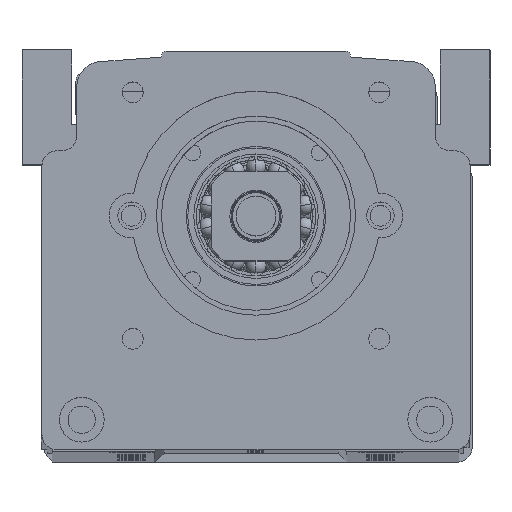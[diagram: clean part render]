
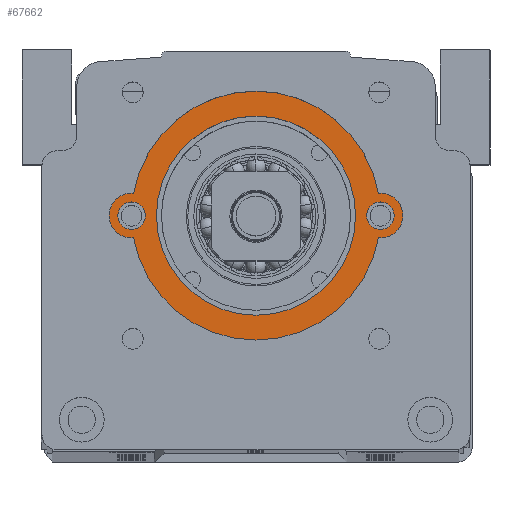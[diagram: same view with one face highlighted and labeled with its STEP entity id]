
A CAD part, top view. The second image highlights one B-rep face of the part: STEP entity #67662.
In plain terms, the highlighted planar face has unit normal (0, 0, 1).
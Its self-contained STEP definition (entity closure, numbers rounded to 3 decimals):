
#212 = CIRCLE ( 'NONE', #69262, 4.5 ) ;
#2012 = CARTESIAN_POINT ( 'NONE',  ( 11.857, 5.327, 7. ) ) ;
#2451 = DIRECTION ( 'NONE',  ( 1., 0., 0. ) ) ;
#2621 = CARTESIAN_POINT ( 'NONE',  ( 14.107, 5.327, 7. ) ) ;
#2680 = CARTESIAN_POINT ( 'NONE',  ( 16.857, 5.327, 7. ) ) ;
#3216 = AXIS2_PLACEMENT_3D ( 'NONE', #73124, #39226, #5270 ) ;
#3850 = CARTESIAN_POINT ( 'NONE',  ( -32.738, 9.808, 7. ) ) ;
#3920 = CIRCLE ( 'NONE', #4510, 25. ) ;
#4357 = EDGE_LOOP ( 'NONE', ( #58655, #32976, #61003, #28174, #9311 ) ) ;
#4510 = AXIS2_PLACEMENT_3D ( 'NONE', #64524, #30669, #70250 ) ;
#5270 = DIRECTION ( 'NONE',  ( 1., 0., 0. ) ) ;
#5380 = AXIS2_PLACEMENT_3D ( 'NONE', #32871, #72456, #38560 ) ;
#5786 = AXIS2_PLACEMENT_3D ( 'NONE', #18824, #58431, #24543 ) ;
#5835 = CARTESIAN_POINT ( 'NONE',  ( -33.143, 5.327, 7. ) ) ;
#6527 = CARTESIAN_POINT ( 'NONE',  ( 21.357, 5.327, 7. ) ) ;
#6613 = CIRCLE ( 'NONE', #41526, 4.5 ) ;
#7430 = ORIENTED_EDGE ( 'NONE', *, *, #66810, .F. ) ;
#7732 = AXIS2_PLACEMENT_3D ( 'NONE', #70314, #36394, #2451 ) ;
#8374 = DIRECTION ( 'NONE',  ( 1., 0., 0. ) ) ;
#9131 = CARTESIAN_POINT ( 'NONE',  ( 16.857, 5.327, 7. ) ) ;
#9311 = ORIENTED_EDGE ( 'NONE', *, *, #55494, .T. ) ;
#10224 = EDGE_CURVE ( 'NONE', #24793, #34434, #212, .T. ) ;
#11531 = DIRECTION ( 'NONE',  ( 1., 0., 0. ) ) ;
#11631 = CARTESIAN_POINT ( 'NONE',  ( -28.143, 5.327, 7. ) ) ;
#11662 = CARTESIAN_POINT ( 'NONE',  ( 16.452, 9.808, 7. ) ) ;
#13563 = EDGE_CURVE ( 'NONE', #34434, #18160, #68285, .T. ) ;
#14150 = AXIS2_PLACEMENT_3D ( 'NONE', #68558, #45790, #34662 ) ;
#14706 = CARTESIAN_POINT ( 'NONE',  ( -35.893, 5.327, 7. ) ) ;
#14785 = DIRECTION ( 'NONE',  ( 1., 0., 0. ) ) ;
#15352 = CARTESIAN_POINT ( 'NONE',  ( -33.143, 5.327, 7. ) ) ;
#15949 = CARTESIAN_POINT ( 'NONE',  ( -8.143, 5.327, 7. ) ) ;
#18160 = VERTEX_POINT ( 'NONE', #11662 ) ;
#18824 = CARTESIAN_POINT ( 'NONE',  ( 16.857, 5.327, 7. ) ) ;
#19632 = CIRCLE ( 'NONE', #7732, 25. ) ;
#19810 = CARTESIAN_POINT ( 'NONE',  ( -32.738, 0.845, 7. ) ) ;
#20272 = VERTEX_POINT ( 'NONE', #2012 ) ;
#20438 = FACE_BOUND ( 'NONE', #65595, .T. ) ;
#21073 = CARTESIAN_POINT ( 'NONE',  ( 19.607, 5.327, 7. ) ) ;
#21085 = DIRECTION ( 'NONE',  ( 1., 0., 0. ) ) ;
#21706 = DIRECTION ( 'NONE',  ( 1., 0., 0. ) ) ;
#23303 = PLANE ( 'NONE',  #14150 ) ;
#24543 = DIRECTION ( 'NONE',  ( 1., 0., 0. ) ) ;
#24772 = CIRCLE ( 'NONE', #33300, 2.75 ) ;
#24793 = VERTEX_POINT ( 'NONE', #67135 ) ;
#25907 = AXIS2_PLACEMENT_3D ( 'NONE', #2680, #42323, #8374 ) ;
#28174 = ORIENTED_EDGE ( 'NONE', *, *, #13563, .T. ) ;
#30150 = ORIENTED_EDGE ( 'NONE', *, *, #58179, .F. ) ;
#30669 = DIRECTION ( 'NONE',  ( 0., 0., 1. ) ) ;
#32449 = CARTESIAN_POINT ( 'NONE',  ( -33.143, 5.327, 7. ) ) ;
#32526 = EDGE_CURVE ( 'NONE', #53433, #63291, #69903, .T. ) ;
#32871 = CARTESIAN_POINT ( 'NONE',  ( 16.857, 5.327, 7. ) ) ;
#32976 = ORIENTED_EDGE ( 'NONE', *, *, #63187, .T. ) ;
#33300 = AXIS2_PLACEMENT_3D ( 'NONE', #15352, #55005, #21085 ) ;
#34334 = VERTEX_POINT ( 'NONE', #45438 ) ;
#34434 = VERTEX_POINT ( 'NONE', #6527 ) ;
#34662 = DIRECTION ( 'NONE',  ( 1., 0., 0. ) ) ;
#35119 = EDGE_CURVE ( 'NONE', #20272, #44035, #46689, .T. ) ;
#36394 = DIRECTION ( 'NONE',  ( 0., 0., 1. ) ) ;
#37665 = VERTEX_POINT ( 'NONE', #14706 ) ;
#38131 = DIRECTION ( 'NONE',  ( 1., 0., 0. ) ) ;
#38560 = DIRECTION ( 'NONE',  ( 1., 0., 0. ) ) ;
#38859 = ORIENTED_EDGE ( 'NONE', *, *, #69820, .F. ) ;
#39226 = DIRECTION ( 'NONE',  ( 0., 0., 1. ) ) ;
#41526 = AXIS2_PLACEMENT_3D ( 'NONE', #32449, #72026, #38131 ) ;
#41911 = VERTEX_POINT ( 'NONE', #3850 ) ;
#42323 = DIRECTION ( 'NONE',  ( 0., 0., 1. ) ) ;
#42639 = EDGE_LOOP ( 'NONE', ( #30150, #38859 ) ) ;
#44035 = VERTEX_POINT ( 'NONE', #11631 ) ;
#45438 = CARTESIAN_POINT ( 'NONE',  ( -30.393, 5.327, 7. ) ) ;
#45492 = DIRECTION ( 'NONE',  ( 0., 0., 1. ) ) ;
#45790 = DIRECTION ( 'NONE',  ( 0., 0., 1. ) ) ;
#46689 = CIRCLE ( 'NONE', #70554, 20. ) ;
#47528 = VERTEX_POINT ( 'NONE', #19810 ) ;
#48765 = DIRECTION ( 'NONE',  ( 0., 0., 1. ) ) ;
#48801 = FACE_OUTER_BOUND ( 'NONE', #4357, .T. ) ;
#50127 = ORIENTED_EDGE ( 'NONE', *, *, #61085, .F. ) ;
#50547 = FACE_BOUND ( 'NONE', #42639, .T. ) ;
#53433 = VERTEX_POINT ( 'NONE', #21073 ) ;
#55005 = DIRECTION ( 'NONE',  ( 0., 0., 1. ) ) ;
#55494 = EDGE_CURVE ( 'NONE', #18160, #41911, #19632, .T. ) ;
#55601 = DIRECTION ( 'NONE',  ( 0., 0., 1. ) ) ;
#56488 = AXIS2_PLACEMENT_3D ( 'NONE', #5835, #45492, #11531 ) ;
#58152 = CIRCLE ( 'NONE', #5380, 2.75 ) ;
#58179 = EDGE_CURVE ( 'NONE', #37665, #34334, #24772, .T. ) ;
#58431 = DIRECTION ( 'NONE',  ( 0., 0., 1. ) ) ;
#58655 = ORIENTED_EDGE ( 'NONE', *, *, #62741, .T. ) ;
#61003 = ORIENTED_EDGE ( 'NONE', *, *, #10224, .T. ) ;
#61085 = EDGE_CURVE ( 'NONE', #63291, #53433, #58152, .T. ) ;
#61145 = ORIENTED_EDGE ( 'NONE', *, *, #35119, .F. ) ;
#61674 = ORIENTED_EDGE ( 'NONE', *, *, #32526, .F. ) ;
#62741 = EDGE_CURVE ( 'NONE', #41911, #47528, #6613, .T. ) ;
#63187 = EDGE_CURVE ( 'NONE', #47528, #24793, #3920, .T. ) ;
#63291 = VERTEX_POINT ( 'NONE', #2621 ) ;
#63829 = FACE_BOUND ( 'NONE', #64910, .T. ) ;
#63894 = CIRCLE ( 'NONE', #3216, 20. ) ;
#64524 = CARTESIAN_POINT ( 'NONE',  ( -8.143, 5.327, 7. ) ) ;
#64910 = EDGE_LOOP ( 'NONE', ( #50127, #61674 ) ) ;
#65595 = EDGE_LOOP ( 'NONE', ( #7430, #61145 ) ) ;
#66810 = EDGE_CURVE ( 'NONE', #44035, #20272, #63894, .T. ) ;
#67135 = CARTESIAN_POINT ( 'NONE',  ( 16.452, 0.845, 7. ) ) ;
#67662 = ADVANCED_FACE ( 'NONE', ( #50547, #48801, #63829, #20438 ), #23303, .T. ) ;
#68285 = CIRCLE ( 'NONE', #5786, 4.5 ) ;
#68558 = CARTESIAN_POINT ( 'NONE',  ( -33.143, 5.327, 7. ) ) ;
#69262 = AXIS2_PLACEMENT_3D ( 'NONE', #9131, #48765, #14785 ) ;
#69820 = EDGE_CURVE ( 'NONE', #34334, #37665, #71637, .T. ) ;
#69903 = CIRCLE ( 'NONE', #25907, 2.75 ) ;
#70250 = DIRECTION ( 'NONE',  ( 1., 0., 0. ) ) ;
#70314 = CARTESIAN_POINT ( 'NONE',  ( -8.143, 5.327, 7. ) ) ;
#70554 = AXIS2_PLACEMENT_3D ( 'NONE', #15949, #55601, #21706 ) ;
#71637 = CIRCLE ( 'NONE', #56488, 2.75 ) ;
#72026 = DIRECTION ( 'NONE',  ( 0., 0., 1. ) ) ;
#72456 = DIRECTION ( 'NONE',  ( 0., 0., 1. ) ) ;
#73124 = CARTESIAN_POINT ( 'NONE',  ( -8.143, 5.327, 7. ) ) ;
